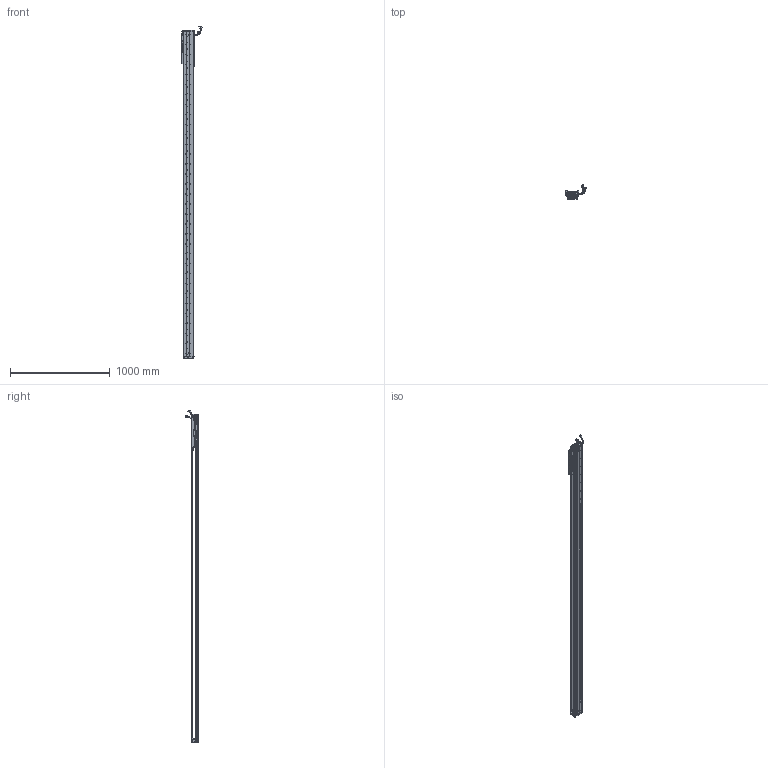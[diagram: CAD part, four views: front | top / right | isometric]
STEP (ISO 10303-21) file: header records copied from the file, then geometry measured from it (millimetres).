
FILE_DESCRIPTION (( 'STEP AP203' ), '1' );
FILE_NAME ('Z4-RY100D-1-L500-B-K.SLDASM_2900.step', '2021-05-17T03:05:18', ( '盈信电脑' ), ( '东莞市道滘镇水果街19号' ), 'SwSTEP 2.0', 'SolidWorks 2016', '' );
FILE_SCHEMA (( 'CONFIG_CONTROL_DESIGN' ));
Length unit declared in the file: millimetre
Products named in the file (36): SCREW-M1.6-3; SCREW-M1.6-1; SCREW-M1.7; PSLH080_PSLF2; 覜茼ん672; SHIELDPLATE; 140蚥薯蝶輸; PBU_SHEET; HARNESS; SCREW-M1.7-1; Z-RY100D覜茼んえ; SCALE; Z4-RY100D-500-倰第菁釱_2900; HARNESS-Part-1; HARNESS-Part-2; Z4-RY100D-1-L500-B-K.SLDASM_2900; SEAL; 140雄赽晤鎢ん堤盄; Z4-RY100-L500詩湍90mm遵_2900; HOLDER0; COVER-Part-1; SEAL-Part-1; SCALE-Part-1; SCALE-Part-2; 100-Z-臏賑輸盄裔(21遴); Z4-RY100铝滑块（21款）; Z-100詩湍傷裔啣; LABEL; Z-RY100D詩湍奻揤裔; COVER; Z-RY100D詩湍狟揤裔; 榋妏寠巭燃_暯_M2_2; SCREW-M1.6; 080黍杅芛假蚾釱21遴; SCREW-M1.6-2; LABEL-Part-1
Assembly tree (43 placements, depth 4):
  Z4-RY100D-1-L500-B-K.SLDASM_2900
    Z4-RY100D-500-倰第菁釱_2900
    Z4-RY100铝滑块（21款）
    PSLH080_PSLF2
      SCALE
        SCALE-Part-1
        SCALE-Part-2
      HARNESS
        HARNESS-Part-1
        HARNESS-Part-2
      LABEL
        LABEL-Part-1
      COVER
        COVER-Part-1
      SEAL
        SEAL-Part-1
      榋妏寠巭燃_暯_M2_2
      SHIELDPLATE
      SCREW-M1.7
      SCREW-M1.7-1
      PBU_SHEET
      SCREW-M1.6
      SCREW-M1.6-1
      SCREW-M1.6-2
      SCREW-M1.6-3
      HOLDER0
    080黍杅芛假蚾釱21遴
    Z-100詩湍傷裔啣  x2
    140蚥薯蝶輸  x2
    覜茼ん672  x3
    Z-RY100D覜茼んえ  x3
    100-Z-臏賑輸盄裔(21遴)
    140雄赽晤鎢ん堤盄
    Z4-RY100-L500詩湍90mm遵_2900
    Z-RY100D詩湍狟揤裔  x2
    Z-RY100D詩湍奻揤裔  x2
Bounding box: 205.79 x 136.11 x 3335.43 mm (x, y, z)
Volume: 6062907.6 mm3; surface area: 2383228.7 mm2
Topology: 38 solids, 38 shells, 3194 faces, 8827 edges, 5652 vertices
Faces by surface type: cylinder 1634, plane 1212, cone 226, torus 69, bspline 53
Entity records: 94411 total; most frequent: CARTESIAN_POINT 19722, DIRECTION 15319, ORIENTED_EDGE 14534, EDGE_CURVE 7267, AXIS2_PLACEMENT_3D 5801, VERTEX_POINT 4720, LINE 3717, VECTOR 3717
